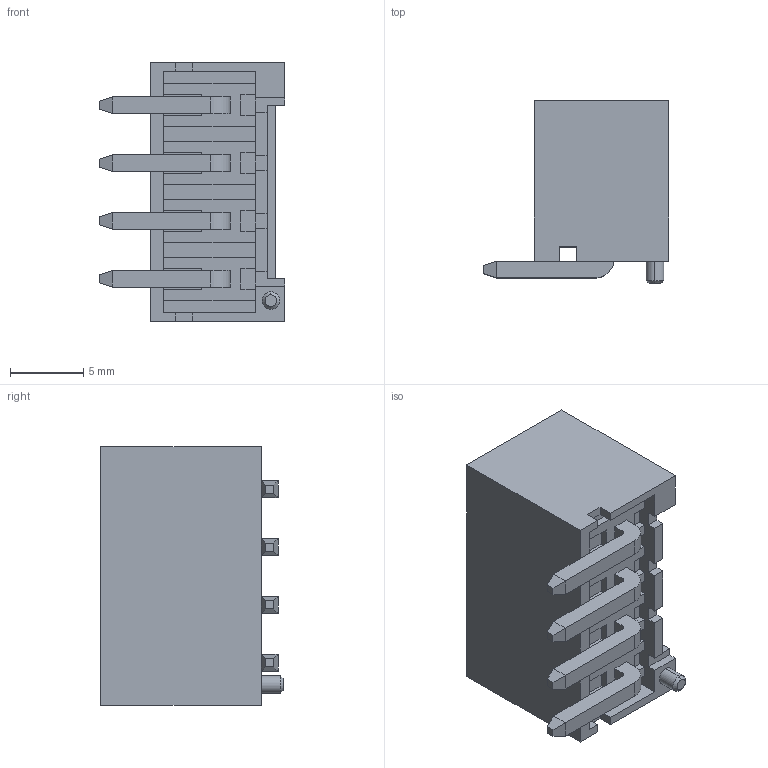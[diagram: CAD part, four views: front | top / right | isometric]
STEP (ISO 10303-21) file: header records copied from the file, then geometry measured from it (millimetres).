
FILE_DESCRIPTION (( 'STEP AP214' ), '1' );
FILE_NAME ('HC-VHH-4AW-05 (3.96 单排 平弯针 带柱 座高11mm-HCTL).STEP', '2025-05-16T02:22:12', ( '' ), ( '' ), 'SwSTEP 2.0', 'SolidWorks 2022', '' );
FILE_SCHEMA (( 'AUTOMOTIVE_DESIGN' ));
Length unit declared in the file: millimetre
Products named in the file (1): HC-VHH-4AW-05 (3.96 单排 平弯针 带柱 座高11mm-HCTL)
Bounding box: 12.7 x 12.5 x 17.72 mm (x, y, z)
Volume: 804.3 mm3; surface area: 1654.2 mm2
Topology: 1 solids, 1 shells, 207 faces, 558 edges, 354 vertices
Faces by surface type: plane 195, cylinder 10, cone 2
Entity records: 6352 total; most frequent: CARTESIAN_POINT 1120, ORIENTED_EDGE 1116, DIRECTION 996, EDGE_CURVE 558, LINE 536, VECTOR 536, VERTEX_POINT 354, AXIS2_PLACEMENT_3D 230
